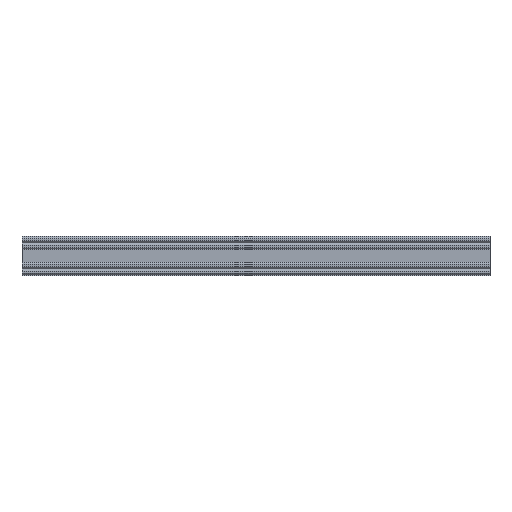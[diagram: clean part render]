
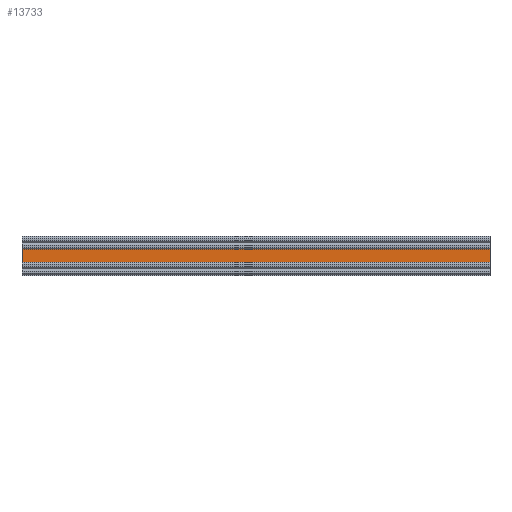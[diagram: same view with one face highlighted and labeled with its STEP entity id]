
A CAD part, left-side view. The second image highlights one B-rep face of the part: STEP entity #13733.
In plain terms, the highlighted planar face has unit normal (-1, 0, 0).
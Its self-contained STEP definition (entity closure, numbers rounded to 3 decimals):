
#62 = EDGE_CURVE ( 'NONE', #46182, #36218, #14522, .T. ) ;
#114 = LINE ( 'NONE', #178, #13050 ) ;
#178 = CARTESIAN_POINT ( 'NONE',  ( -8., 0., 5.525 ) ) ;
#1148 = PLANE ( 'NONE',  #22082 ) ;
#1880 = CARTESIAN_POINT ( 'NONE',  ( -8., 288., 5.525 ) ) ;
#2486 = CARTESIAN_POINT ( 'NONE',  ( -8., 0., -5.525 ) ) ;
#4830 = CARTESIAN_POINT ( 'NONE',  ( -8., 0., -5.525 ) ) ;
#6262 = DIRECTION ( 'NONE',  ( 0., 1., 0. ) ) ;
#7057 = ORIENTED_EDGE ( 'NONE', *, *, #48052, .T. ) ;
#8028 = DIRECTION ( 'NONE',  ( 0., 0., -1. ) ) ;
#8514 = ORIENTED_EDGE ( 'NONE', *, *, #62, .F. ) ;
#13050 = VECTOR ( 'NONE', #24127, 1000. ) ;
#13733 = ADVANCED_FACE ( 'NONE', ( #21254 ), #1148, .F. ) ;
#14522 = LINE ( 'NONE', #2486, #23152 ) ;
#15033 = LINE ( 'NONE', #39598, #40371 ) ;
#15421 = CARTESIAN_POINT ( 'NONE',  ( -8., 288., 5.525 ) ) ;
#19126 = EDGE_CURVE ( 'NONE', #29625, #37105, #15033, .T. ) ;
#21254 = FACE_OUTER_BOUND ( 'NONE', #34170, .T. ) ;
#22082 = AXIS2_PLACEMENT_3D ( 'NONE', #29085, #29252, #44459 ) ;
#23152 = VECTOR ( 'NONE', #6262, 1000. ) ;
#23881 = DIRECTION ( 'NONE',  ( 0., 1., 0. ) ) ;
#24127 = DIRECTION ( 'NONE',  ( 0., 0., -1. ) ) ;
#27290 = CARTESIAN_POINT ( 'NONE',  ( -8., 288., -5.525 ) ) ;
#29085 = CARTESIAN_POINT ( 'NONE',  ( -8., 0., 5.525 ) ) ;
#29252 = DIRECTION ( 'NONE',  ( 1., 0., 0. ) ) ;
#29625 = VERTEX_POINT ( 'NONE', #46869 ) ;
#34170 = EDGE_LOOP ( 'NONE', ( #7057, #8514, #47356, #40515 ) ) ;
#36218 = VERTEX_POINT ( 'NONE', #27290 ) ;
#37105 = VERTEX_POINT ( 'NONE', #1880 ) ;
#38342 = LINE ( 'NONE', #15421, #50102 ) ;
#39598 = CARTESIAN_POINT ( 'NONE',  ( -8., 0., 5.525 ) ) ;
#40371 = VECTOR ( 'NONE', #23881, 1000. ) ;
#40515 = ORIENTED_EDGE ( 'NONE', *, *, #19126, .T. ) ;
#44459 = DIRECTION ( 'NONE',  ( 0., 0., -1. ) ) ;
#46182 = VERTEX_POINT ( 'NONE', #4830 ) ;
#46869 = CARTESIAN_POINT ( 'NONE',  ( -8., 0., 5.525 ) ) ;
#47356 = ORIENTED_EDGE ( 'NONE', *, *, #50567, .F. ) ;
#48052 = EDGE_CURVE ( 'NONE', #37105, #36218, #38342, .T. ) ;
#50102 = VECTOR ( 'NONE', #8028, 1000. ) ;
#50567 = EDGE_CURVE ( 'NONE', #29625, #46182, #114, .T. ) ;
